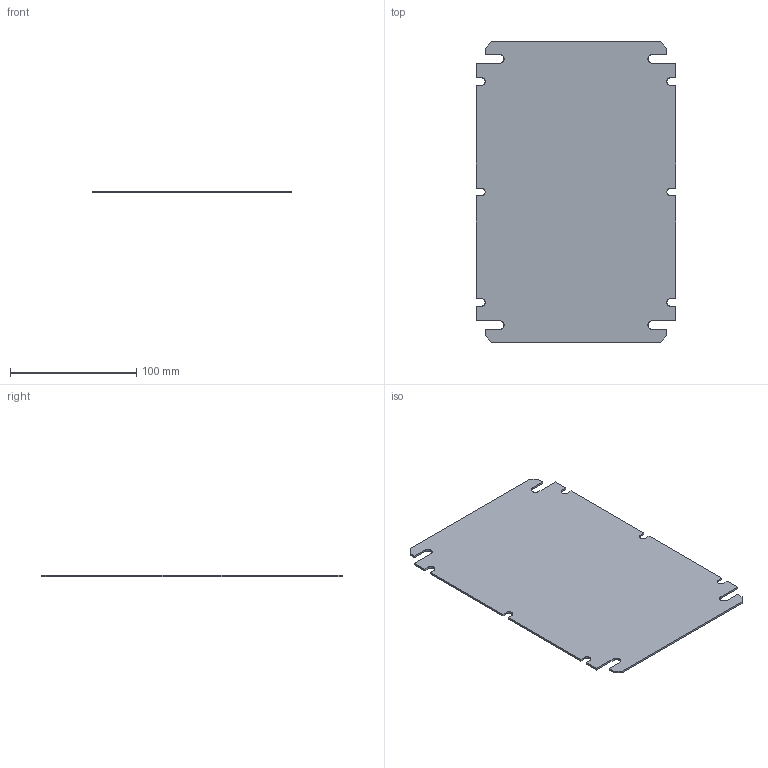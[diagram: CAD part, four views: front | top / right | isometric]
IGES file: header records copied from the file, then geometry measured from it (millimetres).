
Start section: SolidWorks IGES file using analytic representation for surfaces
Global section: file name: G:\3DRAW\EK\3DCAM\Asennuslevy\EKJVT.IGS; native system: SolidWorks 2019; preprocessor: SolidWorks 2019; author: KennethW; date: 190917.103313; units: millimetre
Bounding box: 158 x 238 x 1.5 mm (x, y, z)
Surface area: 74335.6 mm2 (no closed solid volume)
Topology: 0 solids, 0 shells, 55 faces, 608 edges, 608 vertices
Faces by surface type: bspline 40, revolution 15
